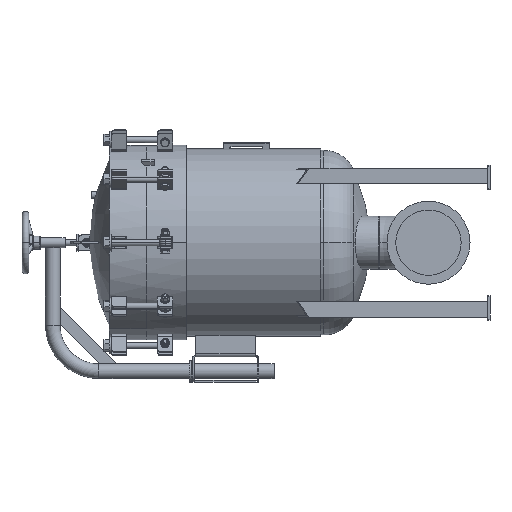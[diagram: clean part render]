
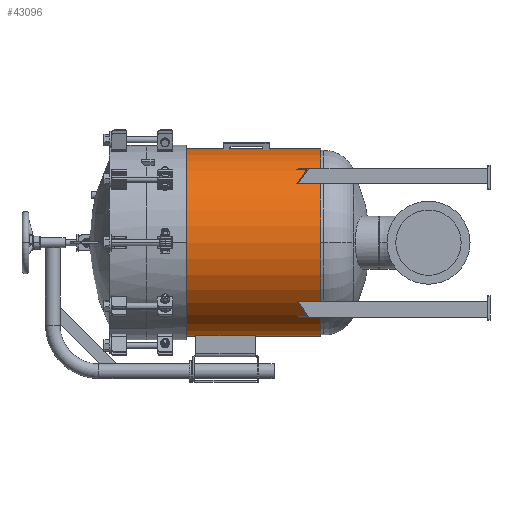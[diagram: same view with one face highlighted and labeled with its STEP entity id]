
A CAD part, left-side view. The second image highlights one B-rep face of the part: STEP entity #43096.
In plain terms, the highlighted cylindrical face has radius 387.35 mm (diameter 774.7 mm), a partial arc.
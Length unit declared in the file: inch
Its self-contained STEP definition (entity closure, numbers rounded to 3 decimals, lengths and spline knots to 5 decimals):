
#1065 = CARTESIAN_POINT ( 'NONE',  ( -2.4413, -3.34375, 15.05332 ) ) ;
#1651 = LINE ( 'NONE', #57310, #10398 ) ;
#1943 = VERTEX_POINT ( 'NONE', #18985 ) ;
#3653 = LINE ( 'NONE', #60953, #20710 ) ;
#3877 = CARTESIAN_POINT ( 'NONE',  ( 0., -12.5, 0. ) ) ;
#5070 = ORIENTED_EDGE ( 'NONE', *, *, #26570, .T. ) ;
#5231 = VERTEX_POINT ( 'NONE', #25996 ) ;
#5592 = VERTEX_POINT ( 'NONE', #50555 ) ;
#5959 = CARTESIAN_POINT ( 'NONE',  ( -2.37926, -19.9375, 15.06325 ) ) ;
#7200 = VERTEX_POINT ( 'NONE', #20265 ) ;
#7327 = DIRECTION ( 'NONE',  ( 0., 0., -1. ) ) ;
#7443 = VERTEX_POINT ( 'NONE', #63381 ) ;
#7705 = CIRCLE ( 'NONE', #42166, 15.25 ) ;
#8315 = CARTESIAN_POINT ( 'NONE',  ( -2.37926, -13.5, 15.06325 ) ) ;
#8325 = ORIENTED_EDGE ( 'NONE', *, *, #65227, .F. ) ;
#8906 = CARTESIAN_POINT ( 'NONE',  ( 0., -3.34375, -15.25 ) ) ;
#9952 = CARTESIAN_POINT ( 'NONE',  ( 0., -6.5, 0. ) ) ;
#10398 = VECTOR ( 'NONE', #37388, 39.37008 ) ;
#12891 = EDGE_CURVE ( 'NONE', #28134, #7443, #50816, .T. ) ;
#13389 = FACE_BOUND ( 'NONE', #50564, .T. ) ;
#13761 = VERTEX_POINT ( 'NONE', #49640 ) ;
#13999 = DIRECTION ( 'NONE',  ( 0., 1., 0. ) ) ;
#14847 = VECTOR ( 'NONE', #25226, 39.37008 ) ;
#15168 = VERTEX_POINT ( 'NONE', #28661 ) ;
#16008 = EDGE_CURVE ( 'NONE', #5592, #1943, #32701, .T. ) ;
#17448 = FACE_OUTER_BOUND ( 'NONE', #25166, .T. ) ;
#18039 = VERTEX_POINT ( 'NONE', #56014 ) ;
#18705 = DIRECTION ( 'NONE',  ( 0., -1., 0. ) ) ;
#18780 = FACE_BOUND ( 'NONE', #30716, .T. ) ;
#18985 = CARTESIAN_POINT ( 'NONE',  ( 0., -28.34375, 15.25 ) ) ;
#19392 = DIRECTION ( 'NONE',  ( 0., 1., 0. ) ) ;
#20265 = CARTESIAN_POINT ( 'NONE',  ( -2.37926, -12.5, 15.06325 ) ) ;
#20271 = CIRCLE ( 'NONE', #36446, 15.25 ) ;
#20710 = VECTOR ( 'NONE', #29260, 39.37008 ) ;
#20970 = DIRECTION ( 'NONE',  ( 0., 1., 0. ) ) ;
#21015 = CARTESIAN_POINT ( 'NONE',  ( -2.4413, -13.5, 15.05332 ) ) ;
#21298 = ORIENTED_EDGE ( 'NONE', *, *, #44341, .T. ) ;
#21301 = LINE ( 'NONE', #1065, #42205 ) ;
#22722 = CARTESIAN_POINT ( 'NONE',  ( -2.4413, -12.5, 15.05332 ) ) ;
#23005 = DIRECTION ( 'NONE',  ( 0., 0., 1. ) ) ;
#24443 = DIRECTION ( 'NONE',  ( 0., 1., 0. ) ) ;
#25166 = EDGE_LOOP ( 'NONE', ( #56629, #36438, #43679, #30402 ) ) ;
#25226 = DIRECTION ( 'NONE',  ( 0., -1., 0. ) ) ;
#25996 = CARTESIAN_POINT ( 'NONE',  ( -2.4413, -19.9375, 15.05332 ) ) ;
#26570 = EDGE_CURVE ( 'NONE', #45207, #53483, #1651, .T. ) ;
#28134 = VERTEX_POINT ( 'NONE', #60537 ) ;
#28661 = CARTESIAN_POINT ( 'NONE',  ( -2.37926, -19.9375, 15.06325 ) ) ;
#29260 = DIRECTION ( 'NONE',  ( 0., 1., 0. ) ) ;
#30402 = ORIENTED_EDGE ( 'NONE', *, *, #16008, .T. ) ;
#30597 = VERTEX_POINT ( 'NONE', #8315 ) ;
#30716 = EDGE_LOOP ( 'NONE', ( #5070, #53269, #49946, #21298 ) ) ;
#32063 = EDGE_CURVE ( 'NONE', #28134, #5592, #49374, .T. ) ;
#32701 = CIRCLE ( 'NONE', #33771, 15.25 ) ;
#33771 = AXIS2_PLACEMENT_3D ( 'NONE', #49075, #19392, #34556 ) ;
#34556 = DIRECTION ( 'NONE',  ( 1., 0., 0. ) ) ;
#35012 = CARTESIAN_POINT ( 'NONE',  ( 0., -3.34375, 15.25 ) ) ;
#35374 = DIRECTION ( 'NONE',  ( 0., 0., -1. ) ) ;
#36299 = AXIS2_PLACEMENT_3D ( 'NONE', #59913, #48454, #7327 ) ;
#36421 = EDGE_CURVE ( 'NONE', #18039, #13761, #7705, .T. ) ;
#36438 = ORIENTED_EDGE ( 'NONE', *, *, #12891, .F. ) ;
#36446 = AXIS2_PLACEMENT_3D ( 'NONE', #61971, #42072, #62971 ) ;
#37388 = DIRECTION ( 'NONE',  ( 0., 1., 0. ) ) ;
#38941 = ORIENTED_EDGE ( 'NONE', *, *, #36421, .T. ) ;
#40080 = AXIS2_PLACEMENT_3D ( 'NONE', #9952, #24443, #65241 ) ;
#42072 = DIRECTION ( 'NONE',  ( 0., -1., 0. ) ) ;
#42166 = AXIS2_PLACEMENT_3D ( 'NONE', #43922, #63809, #23005 ) ;
#42205 = VECTOR ( 'NONE', #20970, 39.37008 ) ;
#43096 = ADVANCED_FACE ( 'Defeatured_26_59', ( #17448, #13389, #18780 ), #54181, .T. ) ;
#43679 = ORIENTED_EDGE ( 'NONE', *, *, #32063, .T. ) ;
#43922 = CARTESIAN_POINT ( 'NONE',  ( 0., -18.9375, 0. ) ) ;
#44149 = LINE ( 'NONE', #35012, #14847 ) ;
#44174 = EDGE_CURVE ( 'NONE', #7443, #1943, #44149, .T. ) ;
#44341 = EDGE_CURVE ( 'NONE', #30597, #45207, #20271, .T. ) ;
#44689 = DIRECTION ( 'NONE',  ( 0., 1., 0. ) ) ;
#45207 = VERTEX_POINT ( 'NONE', #21015 ) ;
#47592 = VECTOR ( 'NONE', #13999, 39.37008 ) ;
#47833 = AXIS2_PLACEMENT_3D ( 'NONE', #3877, #44689, #65229 ) ;
#48454 = DIRECTION ( 'NONE',  ( 0., -1., 0. ) ) ;
#49075 = CARTESIAN_POINT ( 'NONE',  ( 0., -28.34375, 0. ) ) ;
#49374 = LINE ( 'NONE', #8906, #58017 ) ;
#49640 = CARTESIAN_POINT ( 'NONE',  ( -2.37926, -18.9375, 15.06325 ) ) ;
#49717 = EDGE_CURVE ( 'NONE', #5231, #18039, #21301, .T. ) ;
#49946 = ORIENTED_EDGE ( 'NONE', *, *, #50222, .F. ) ;
#49948 = CIRCLE ( 'NONE', #47833, 15.25 ) ;
#50222 = EDGE_CURVE ( 'NONE', #30597, #7200, #63584, .T. ) ;
#50555 = CARTESIAN_POINT ( 'NONE',  ( 0., -28.34375, -15.25 ) ) ;
#50564 = EDGE_LOOP ( 'NONE', ( #8325, #63010, #51524, #38941 ) ) ;
#50816 = CIRCLE ( 'NONE', #40080, 15.25 ) ;
#51524 = ORIENTED_EDGE ( 'NONE', *, *, #49717, .T. ) ;
#52007 = EDGE_CURVE ( 'NONE', #53483, #7200, #49948, .T. ) ;
#52405 = AXIS2_PLACEMENT_3D ( 'NONE', #66719, #65382, #35374 ) ;
#53269 = ORIENTED_EDGE ( 'NONE', *, *, #52007, .T. ) ;
#53483 = VERTEX_POINT ( 'NONE', #22722 ) ;
#54181 = CYLINDRICAL_SURFACE ( 'NONE', #36299, 15.25 ) ;
#54565 = CIRCLE ( 'NONE', #52405, 15.25 ) ;
#56014 = CARTESIAN_POINT ( 'NONE',  ( -2.4413, -18.9375, 15.05332 ) ) ;
#56293 = EDGE_CURVE ( 'NONE', #15168, #5231, #54565, .T. ) ;
#56629 = ORIENTED_EDGE ( 'NONE', *, *, #44174, .F. ) ;
#57310 = CARTESIAN_POINT ( 'NONE',  ( -2.4413, -3.34375, 15.05332 ) ) ;
#58017 = VECTOR ( 'NONE', #18705, 39.37008 ) ;
#59913 = CARTESIAN_POINT ( 'NONE',  ( 0., -3.34375, 0. ) ) ;
#60537 = CARTESIAN_POINT ( 'NONE',  ( 0., -6.5, -15.25 ) ) ;
#60953 = CARTESIAN_POINT ( 'NONE',  ( -2.37926, -19.9375, 15.06325 ) ) ;
#61971 = CARTESIAN_POINT ( 'NONE',  ( 0., -13.5, 0. ) ) ;
#62971 = DIRECTION ( 'NONE',  ( 0., 0., -1. ) ) ;
#63010 = ORIENTED_EDGE ( 'NONE', *, *, #56293, .T. ) ;
#63381 = CARTESIAN_POINT ( 'NONE',  ( 0., -6.5, 15.25 ) ) ;
#63584 = LINE ( 'NONE', #5959, #47592 ) ;
#63809 = DIRECTION ( 'NONE',  ( 0., 1., 0. ) ) ;
#65227 = EDGE_CURVE ( 'NONE', #15168, #13761, #3653, .T. ) ;
#65229 = DIRECTION ( 'NONE',  ( 0., 0., 1. ) ) ;
#65241 = DIRECTION ( 'NONE',  ( -1., 0., 0. ) ) ;
#65382 = DIRECTION ( 'NONE',  ( 0., -1., 0. ) ) ;
#66719 = CARTESIAN_POINT ( 'NONE',  ( 0., -19.9375, 0. ) ) ;
